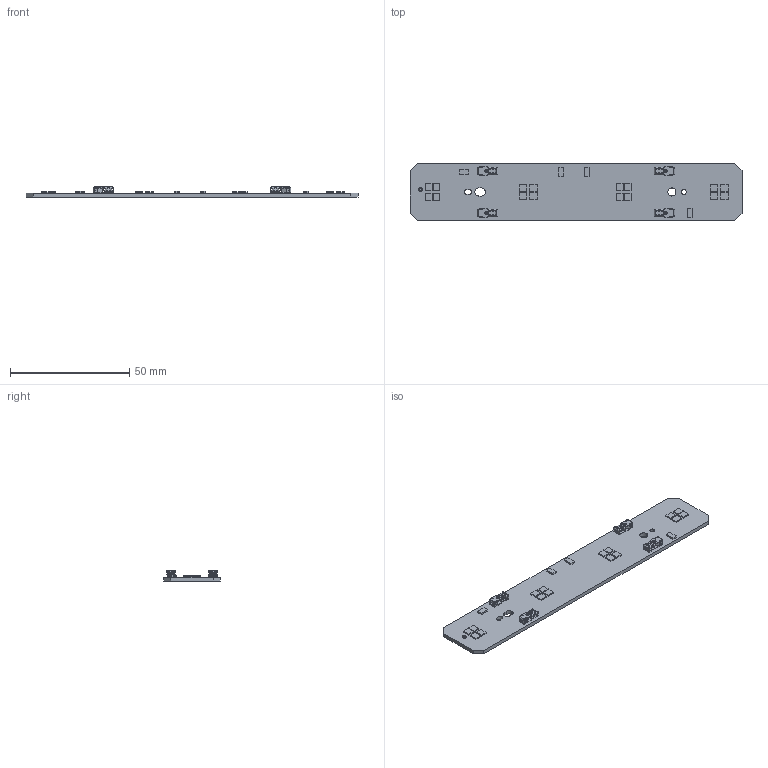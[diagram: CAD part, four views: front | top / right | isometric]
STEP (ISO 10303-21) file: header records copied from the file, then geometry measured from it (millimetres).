
FILE_DESCRIPTION((''),'2;1');
FILE_NAME('16208827_LLE-24X140-LVD-ADV1','2019-07-24T09:49:59',('bernhard.fink'),(''),'CREO PARAMETRIC BY PTC INC, 2019030','CREO PARAMETRIC BY PTC INC, 2019030','');
FILE_SCHEMA(('AUTOMOTIVE_DESIGN { 1 0 10303 214 1 1 1 1 }'));
Products named in the file (1): 16208827_LLE-24X140-LVD-ADV1
Bounding box: 139 x 23.6 x 4.2 mm (x, y, z)
Volume: 5405.2 mm3; surface area: 8289.5 mm2
Topology: 21 solids, 25 shells, 1325 faces, 3686 edges, 2338 vertices
Faces by surface type: plane 733, cylinder 396, bspline 168, cone 16, torus 12
Entity records: 67230 total; most frequent: CARTESIAN_POINT 15930, ORIENTED_EDGE 6952, DIRECTION 6044, PRESENTATION_STYLE_ASSIGNMENT 4747, STYLED_ITEM 3721, CURVE_STYLE 3696, EDGE_CURVE 3686, VECTOR 2375
